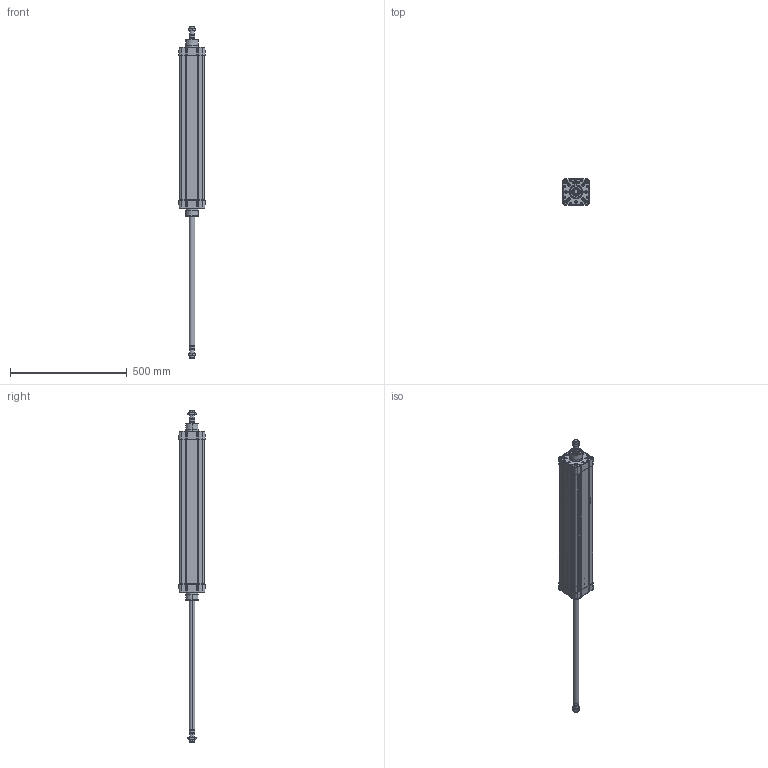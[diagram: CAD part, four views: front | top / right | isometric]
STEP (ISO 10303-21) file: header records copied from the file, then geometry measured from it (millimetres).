
FILE_DESCRIPTION (( 'STEP AP214' ), '1' );
FILE_NAME ('N11M41000550.STEP', '2021-09-28T13:49:04', ( '' ), ( '' ), 'SwSTEP 2.0', 'SolidWorks 2016', '' );
FILE_SCHEMA (( 'AUTOMOTIVE_DESIGN' ));
Length unit declared in the file: millimetre
Products named in the file (7): 21.753.0; 21.F03.0000_21.F03.0550; N11M41000550; 000.515.7_000.515.0550; TA Ø100 ISO 15552 WEB; Pistone Ø100 ISO 15552; 21.F01.0000_21.F01.0550
Assembly tree (8 placements, depth 2):
  N11M41000550
    TA Ø100 ISO 15552 WEB  x2
    Pistone Ø100 ISO 15552
    21.753.0  x2
    21.F01.0000_21.F01.0550
    000.515.7_000.515.0550
    21.F03.0000_21.F03.0550
Bounding box: 111.9 x 111.95 x 1420 mm (x, y, z)
Volume: 3108591.9 mm3; surface area: 1153484.4 mm2
Topology: 20 solids, 22 shells, 2239 faces, 5706 edges, 3571 vertices
Faces by surface type: plane 887, cylinder 678, cone 416, torus 112, bspline 108, sphere 38
Entity records: 50974 total; most frequent: CARTESIAN_POINT 9669, ORIENTED_EDGE 6398, DIRECTION 6376, EDGE_CURVE 3199, AXIS2_PLACEMENT_3D 2340, VERTEX_POINT 2023, VECTOR 1696, LINE 1696
